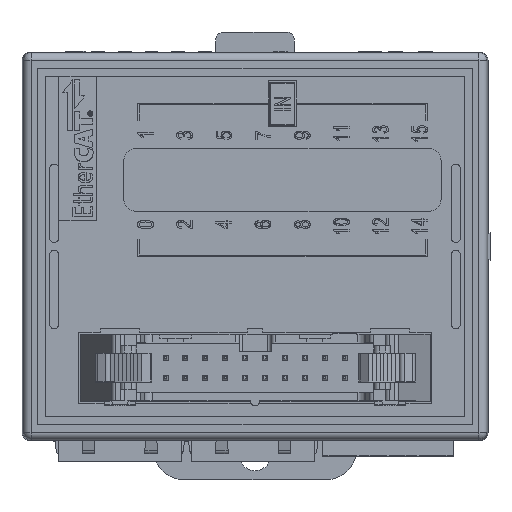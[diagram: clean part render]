
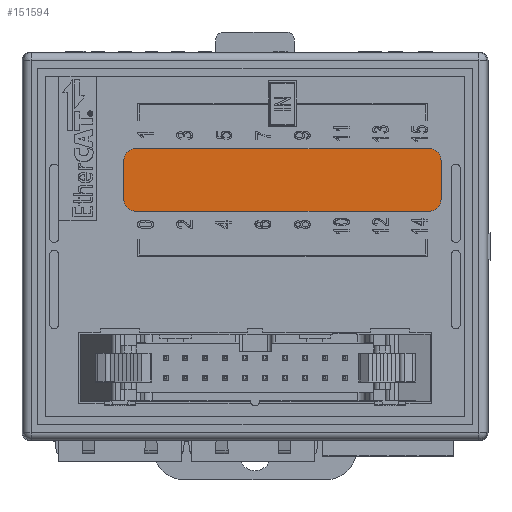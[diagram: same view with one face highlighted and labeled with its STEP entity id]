
A CAD part, top view. The second image highlights one B-rep face of the part: STEP entity #151594.
In plain terms, the highlighted planar face has unit normal (0, 0, 1).
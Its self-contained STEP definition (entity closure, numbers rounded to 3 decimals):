
#44815=DIRECTION('',(-1.,0.,0.));
#44816=VECTOR('',#44815,37.5);
#44817=CARTESIAN_POINT('',(22.25,12.5,30.9));
#44818=LINE('',#44817,#44816);
#44819=CARTESIAN_POINT('',(22.25,11.,30.9));
#44820=DIRECTION('',(0.,0.,1.));
#44821=DIRECTION('',(1.,0.,0.));
#44822=AXIS2_PLACEMENT_3D('',#44819,#44820,#44821);
#44824=DIRECTION('',(0.,1.,0.));
#44825=VECTOR('',#44824,5.);
#44826=CARTESIAN_POINT('',(23.75,6.,30.9));
#44827=LINE('',#44826,#44825);
#44828=CARTESIAN_POINT('',(22.25,6.,30.9));
#44829=DIRECTION('',(0.,0.,1.));
#44830=DIRECTION('',(0.,-1.,0.));
#44831=AXIS2_PLACEMENT_3D('',#44828,#44829,#44830);
#44833=DIRECTION('',(1.,0.,0.));
#44834=VECTOR('',#44833,37.5);
#44835=CARTESIAN_POINT('',(-15.25,4.5,30.9));
#44836=LINE('',#44835,#44834);
#44837=CARTESIAN_POINT('',(-15.25,6.,30.9));
#44838=DIRECTION('',(0.,0.,1.));
#44839=DIRECTION('',(-1.,0.,0.));
#44840=AXIS2_PLACEMENT_3D('',#44837,#44838,#44839);
#44842=DIRECTION('',(0.,-1.,0.));
#44843=VECTOR('',#44842,5.);
#44844=CARTESIAN_POINT('',(-16.75,11.,30.9));
#44845=LINE('',#44844,#44843);
#44846=CARTESIAN_POINT('',(-15.25,11.,30.9));
#44847=DIRECTION('',(0.,0.,1.));
#44848=DIRECTION('',(0.,1.,0.));
#44849=AXIS2_PLACEMENT_3D('',#44846,#44847,#44848);
#54634=CARTESIAN_POINT('',(-15.25,12.5,30.9));
#54635=VERTEX_POINT('',#54634);
#54636=CARTESIAN_POINT('',(22.25,12.5,30.9));
#54637=VERTEX_POINT('',#54636);
#54638=CARTESIAN_POINT('',(23.75,11.,30.9));
#54639=VERTEX_POINT('',#54638);
#54640=CARTESIAN_POINT('',(23.75,6.,30.9));
#54641=VERTEX_POINT('',#54640);
#54642=CARTESIAN_POINT('',(22.25,4.5,30.9));
#54643=VERTEX_POINT('',#54642);
#54644=CARTESIAN_POINT('',(-15.25,4.5,30.9));
#54645=VERTEX_POINT('',#54644);
#54646=CARTESIAN_POINT('',(-16.75,6.,30.9));
#54647=VERTEX_POINT('',#54646);
#54648=CARTESIAN_POINT('',(-16.75,11.,30.9));
#54649=VERTEX_POINT('',#54648);
#151579=CARTESIAN_POINT('',(3.5,8.5,30.9));
#151580=DIRECTION('',(0.,0.,1.));
#151581=DIRECTION('',(1.,0.,0.));
#151582=AXIS2_PLACEMENT_3D('',#151579,#151580,#151581);
#151583=PLANE('',#151582);
#151584=ORIENTED_EDGE('',*,*,#151419,.F.);
#151585=ORIENTED_EDGE('',*,*,#151441,.F.);
#151586=ORIENTED_EDGE('',*,*,#151462,.F.);
#151587=ORIENTED_EDGE('',*,*,#151483,.F.);
#151588=ORIENTED_EDGE('',*,*,#151504,.F.);
#151589=ORIENTED_EDGE('',*,*,#151525,.F.);
#151590=ORIENTED_EDGE('',*,*,#151546,.F.);
#151591=ORIENTED_EDGE('',*,*,#151566,.F.);
#151592=EDGE_LOOP('',(#151584,#151585,#151586,#151587,#151588,#151589,#151590,
#151591));
#151593=FACE_OUTER_BOUND('',#151592,.F.);
#151594=ADVANCED_FACE('',(#151593),#151583,.T.);
#44823=CIRCLE('',#44822,1.5);
#44832=CIRCLE('',#44831,1.5);
#44841=CIRCLE('',#44840,1.5);
#44850=CIRCLE('',#44849,1.5);
#151419=EDGE_CURVE('',#54637,#54635,#44818,.T.);
#151441=EDGE_CURVE('',#54639,#54637,#44823,.T.);
#151462=EDGE_CURVE('',#54641,#54639,#44827,.T.);
#151483=EDGE_CURVE('',#54643,#54641,#44832,.T.);
#151504=EDGE_CURVE('',#54645,#54643,#44836,.T.);
#151525=EDGE_CURVE('',#54647,#54645,#44841,.T.);
#151546=EDGE_CURVE('',#54649,#54647,#44845,.T.);
#151566=EDGE_CURVE('',#54635,#54649,#44850,.T.);
